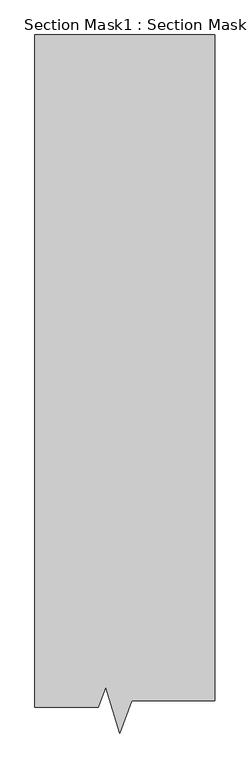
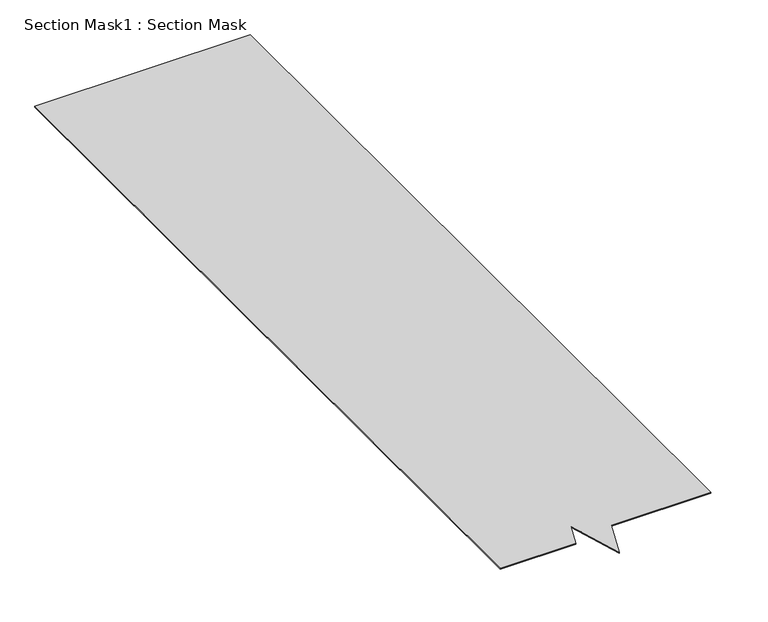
"""IFC4 building model written with IfcOpenShell, lengths in millimetres: proxy geometry, Section Mask1 : Section Mask."""

from ifc_helpers import new_model, si_unit, frame, origin, place, context, project, spatial, polyline, outline, extrude, source, transform, mapped, element, save


def section_mask1_section_mask_918df037(model_context):
    return source(origin(), model_context, "Body", "SweptSolid", [
        extrude(outline(polyline([(480.280417, -301.0796171), (287.0482972, -301.0796171), (287.0482972, 1754.1332024), (836.5001837, 1754.1332024), (836.5001837, -280.2311456), (582.9143176, -280.2311456), (546.2974609, -379.3939873), (503.2973565, -238.7469831), (480.280417, -301.0796171)])), frame((0.0, 0.0, 51.3773345), z_axis=(0.0, 0.0, 1.0), x_axis=(1.0, 0.0, 0.0)), (0.0, 0.0, 1.0), 2.5976655),
    ])


if __name__ == "__main__":
    model = new_model("IFC4")
    model_context = context("Model", 3, world=origin())
    ifc_project = project(units=[si_unit("LENGTHUNIT", "METRE", prefix="MILLI")], contexts=[model_context])
    site = spatial("IfcSite", under=ifc_project)
    building = spatial("IfcBuilding", under=site)
    placement = place(None, origin())
    section_mask1_section_mask_shape = section_mask1_section_mask_918df037(model_context)
    element("IfcBuildingElementProxy", 1, Name="Section Mask1 : Section Mask", ObjectType="Section Mask1 : Section Mask", at=placement, inside=building, context=model_context, shape_type="MappedRepresentation", body=[
        mapped(section_mask1_section_mask_shape, transform((0.0, 0.0, 0.0), x_axis=(1.0, 0.0, 0.0), y_axis=(0.0, 1.0, 0.0), z_axis=(0.0, 0.0, 1.0))),
    ])
    save(model, "model.ifc")
